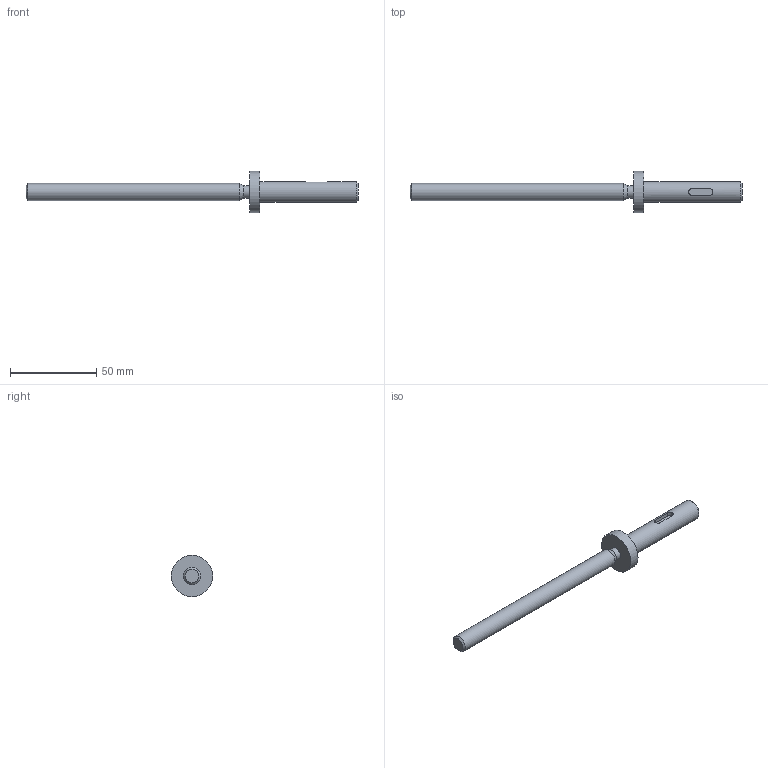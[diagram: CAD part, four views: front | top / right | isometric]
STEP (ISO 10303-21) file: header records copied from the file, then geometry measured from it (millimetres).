
FILE_DESCRIPTION(/* description */ (''),/* implementation_level */ '2;1');
FILE_NAME(/* name */ '',/* time_stamp */ '2024-08-29T13:13:47+09:00',/* author */ ('jhkim'),/* organization */ (''),/* preprocessor_version */ 'ST-DEVELOPER v20',/* originating_system */ 'Autodesk Inventor 2025',/* authorisation */ '');
FILE_SCHEMA (('AUTOMOTIVE_DESIGN { 1 0 10303 214 3 1 1 }'));
Length unit declared in the file: millimetre
Products named in the file (1): 나사축
Bounding box: 193 x 24 x 24 mm (x, y, z)
Volume: 19021.5 mm3; surface area: 7625 mm2
Topology: 1 solids, 1 shells, 16 faces, 32 edges, 21 vertices
Faces by surface type: plane 7, cylinder 6, cone 3
Full cylindrical faces by diameter (mm): 7 x1, 10 x1, 12 x1, 24 x1
Entity records: 496 total; most frequent: CARTESIAN_POINT 104, DIRECTION 79, ORIENTED_EDGE 64, EDGE_CURVE 32, AXIS2_PLACEMENT_3D 32, VERTEX_POINT 21, EDGE_LOOP 19, FACE_OUTER_BOUND 16
